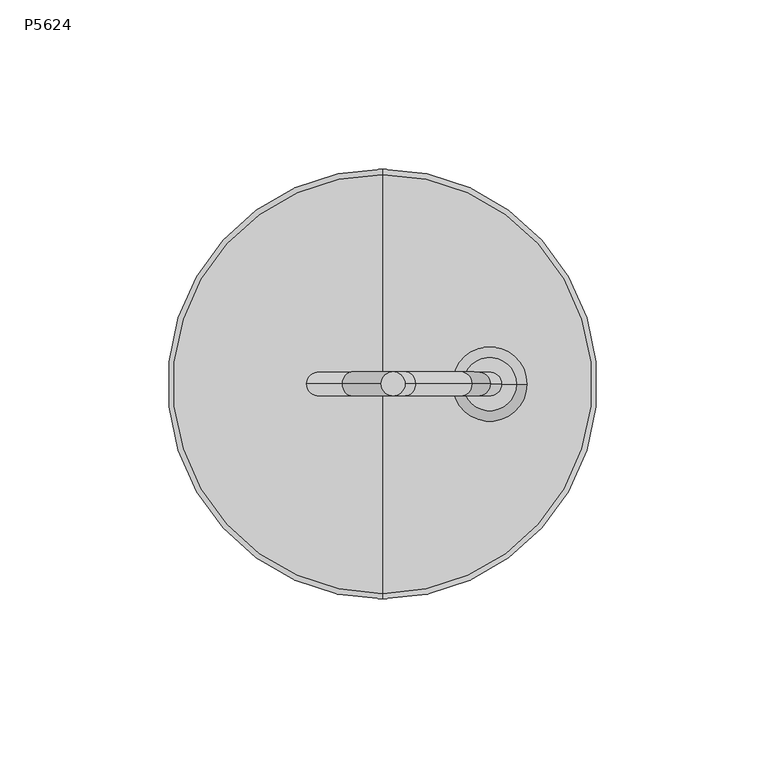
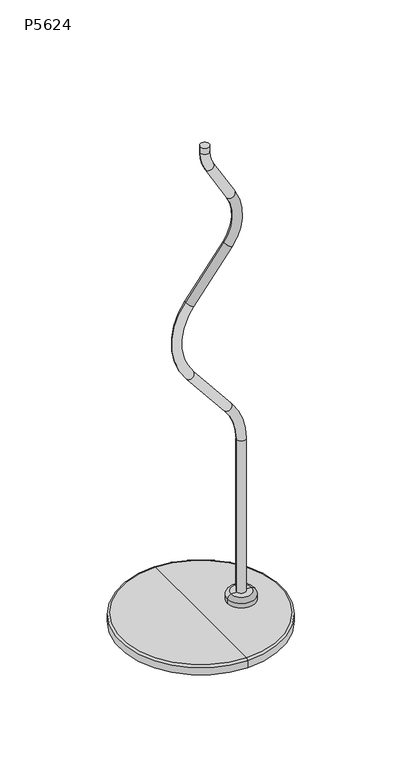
"""IFC4 building model written with IfcOpenShell, lengths in millimetres: light fixture geometry, Impact_Arch_Ltg-waf.r.3 : P5624."""

import ifcopenshell
import ifcopenshell.guid

model = None  # the IFC model being written
_history = None  # IfcOwnerHistory: only IFC2X3 demands one
_inside = {}  # id of a spatial element -> (the spatial element, [elements in it])
_under = {}  # id of a project, library or spatial element -> (it, [spatial elements below it])
_declared = {}  # id of a project -> (the project, [libraries it declares])
_typed = {}  # id of a type object -> (the type object, [elements of that type])
_made_of = {}  # id of a material, layer set ... -> (it, [elements and type objects made of it])


def new_model(schema):
    """Start an empty IFC model of exactly this schema.

    Asked for "IFC4X3", IfcOpenShell would pick the latest addendum, in which some entities
    have other attributes; the version numbers below select the first issue.
    IFC2X3 requires an IfcOwnerHistory on every rooted entity: one is made here for all.
    """
    global model, _history
    if schema == "IFC4X3":
        model = ifcopenshell.file(schema_version=(4, 3, 0, 0))
    else:
        model = ifcopenshell.file(schema=schema)
    _inside.clear()
    _under.clear()
    _declared.clear()
    _typed.clear()
    _made_of.clear()
    _history = None
    if model.schema == "IFC2X3":
        org = make("IfcOrganization", Name="unknown")
        user = make(
            "IfcPersonAndOrganization",
            ThePerson=make("IfcPerson", FamilyName="unknown"),
            TheOrganization=org,
        )
        app = make(
            "IfcApplication",
            ApplicationDeveloper=org,
            Version="unknown",
            ApplicationFullName="unknown",
            ApplicationIdentifier="unknown",
        )
        _history = make(
            "IfcOwnerHistory",
            OwningUser=user,
            OwningApplication=app,
            ChangeAction="ADDED",
            CreationDate=0,
        )
    return model


def make(cls, **values):
    """One entity of the class cls with the attributes given. An attribute that is None is left unset."""
    return model.create_entity(
        cls, **{name: value for name, value in values.items() if value is not None}
    )


def rooted(cls, **values):
    """An entity with a GlobalId (a new one), such as an element, a storey or a relation."""
    return make(cls, GlobalId=ifcopenshell.guid.new(), OwnerHistory=_history, **values)


def si_unit(unit_type, name, prefix=None):
    """IfcSIUnit, for example si_unit("LENGTHUNIT", "METRE", prefix="MILLI")."""
    return make("IfcSIUnit", UnitType=unit_type, Prefix=prefix, Name=name)


def assignment(units):
    """IfcUnitAssignment: the units of a project."""
    return None if units is None else make("IfcUnitAssignment", Units=units)


def point(xyz):
    """IfcCartesianPoint."""
    return None if xyz is None else make("IfcCartesianPoint", Coordinates=xyz)


def direction(xyz):
    """IfcDirection."""
    return None if xyz is None else make("IfcDirection", DirectionRatios=xyz)


def frame(location, z_axis=None, x_axis=None):
    """IfcAxis2Placement3D, a coordinate frame: its origin and axes. An axis left out is left unset."""
    return make(
        "IfcAxis2Placement3D",
        Location=point(location),
        Axis=direction(z_axis),
        RefDirection=direction(x_axis),
    )


def origin():
    """The frame at (0, 0, 0) with its axes left unset."""
    return frame((0.0, 0.0, 0.0))


def place(relative_to, where):
    """IfcLocalPlacement: puts the frame where relative to a parent placement (None: the world)."""
    return make(
        "IfcLocalPlacement", PlacementRelTo=relative_to, RelativePlacement=where
    )


def context(
    kind, dimensions, precision=None, world=None, true_north=None, identifier=None
):
    """IfcGeometricRepresentationContext, for example the 3D "Model" context."""
    return make(
        "IfcGeometricRepresentationContext",
        ContextIdentifier=identifier,
        ContextType=kind,
        CoordinateSpaceDimension=dimensions,
        Precision=precision,
        WorldCoordinateSystem=world,
        TrueNorth=true_north,
    )


def project(units=None, contexts=None):
    """IfcProject with its units and contexts."""
    return rooted(
        "IfcProject",
        Name="project",
        RepresentationContexts=contexts,
        UnitsInContext=assignment(units),
    )


def spatial(cls, under=None, at=None, **own):
    """A site, building, storey or space (cls), placed at a placement, below another one or the project."""
    s = rooted(cls, ObjectPlacement=at, **own)
    if under is not None:
        _under.setdefault(under.id(), (under, []))[1].append(s)
    return s


def circle_curve(where, radius):
    """IfcCircle in the frame where."""
    return make("IfcCircle", Position=where, Radius=radius)


def ellipse_curve(where, semi_axis1, semi_axis2):
    """IfcEllipse in the frame where."""
    return make(
        "IfcEllipse", Position=where, SemiAxis1=semi_axis1, SemiAxis2=semi_axis2
    )


def trimmed(basis, trim1, trim2, sense, master):
    """IfcTrimmedCurve: the piece of a basis curve between two trims."""
    return make(
        "IfcTrimmedCurve",
        BasisCurve=basis,
        Trim1=trim1,
        Trim2=trim2,
        SenseAgreement=sense,
        MasterRepresentation=master,
    )


def shape(context_of_items, identifier, shape_type, items):
    """IfcShapeRepresentation: the items that make up one representation, for example the "Body"."""
    return make(
        "IfcShapeRepresentation",
        ContextOfItems=context_of_items,
        RepresentationIdentifier=identifier,
        RepresentationType=shape_type,
        Items=items,
    )


def source(mapping_origin, context_of_items, identifier, shape_type, items):
    """IfcRepresentationMap: a shape defined once, which mapped items show again and again."""
    return make(
        "IfcRepresentationMap",
        MappingOrigin=mapping_origin,
        MappedRepresentation=shape(context_of_items, identifier, shape_type, items),
    )


def transform(
    local_origin,
    x_axis=None,
    y_axis=None,
    z_axis=None,
    scale=None,
    scale2=None,
    scale3=None,
    uniform=True,
):
    """IfcCartesianTransformationOperator3D, or its non-uniform kind. x_axis, y_axis, z_axis: its Axis1, 2, 3."""
    if uniform:
        return make(
            "IfcCartesianTransformationOperator3D",
            Axis1=direction(x_axis),
            Axis2=direction(y_axis),
            LocalOrigin=point(local_origin),
            Scale=scale,
            Axis3=direction(z_axis),
        )
    return make(
        "IfcCartesianTransformationOperator3DnonUniform",
        Axis1=direction(x_axis),
        Axis2=direction(y_axis),
        LocalOrigin=point(local_origin),
        Scale=scale,
        Axis3=direction(z_axis),
        Scale2=scale2,
        Scale3=scale3,
    )


def mapped(mapping_source, mapping_target):
    """IfcMappedItem: shows the shape of a source again, moved by a transform."""
    return make(
        "IfcMappedItem", MappingSource=mapping_source, MappingTarget=mapping_target
    )


def made_of(thing, what):
    """Note that an element or type object is made of a material, layer set ...; save() writes the relation."""
    if what is not None:
        _made_of.setdefault(what.id(), (what, []))[1].append(thing)
    return thing


def element(
    cls,
    number,
    at=None,
    inside=None,
    cuts=None,
    type_object=None,
    material=None,
    context=None,
    identifier="Body",
    shape_type=None,
    held_by="IfcProductDefinitionShape",
    body=None,
    shapes=None,
    **own,
):
    """One element of the class cls, such as IfcWall. Its Tag is "e" and its number.

    at: its placement. inside: the storey or other place that contains it. cuts: it is an
    opening in that element (IfcRelVoidsElement). A single representation is given by context,
    identifier, shape_type and body (its items); several are given by shapes. held_by: the class
    of the entity that holds the representations. save() writes the other relations.
    """
    e = rooted(cls, Tag="e%d" % number, ObjectPlacement=at, **own)
    if body is not None:
        shapes = [shape(context, identifier, shape_type, body)]
    if shapes is not None:
        e.Representation = make(held_by, Representations=shapes)
    if inside is not None:
        _inside.setdefault(inside.id(), (inside, []))[1].append(e)
    if cuts is not None:
        rooted(
            "IfcRelVoidsElement", RelatingBuildingElement=cuts, RelatedOpeningElement=e
        )
    if type_object is not None:
        _typed.setdefault(type_object.id(), (type_object, []))[1].append(e)
    return made_of(e, material)


def aggregate(whole, parts):
    """IfcRelAggregates: a whole, such as a stair, and the parts it consists of."""
    return rooted("IfcRelAggregates", RelatingObject=whole, RelatedObjects=parts)


def save(model, path):
    """Write the relations noted so far, then the file.

    IfcRelAggregates (storeys below a building ...), IfcRelContainedInSpatialStructure (elements
    in a storey), IfcRelDefinesByType, IfcRelAssociatesMaterial and IfcRelDeclares: one each for
    every whole, place, type object, material and project.
    """
    for whole, parts in _under.values():
        aggregate(whole, parts)
    for where, things in _inside.values():
        rooted(
            "IfcRelContainedInSpatialStructure",
            RelatedElements=things,
            RelatingStructure=where,
        )
    for kind, things in _typed.values():
        rooted("IfcRelDefinesByType", RelatedObjects=things, RelatingType=kind)
    for what, things in _made_of.values():
        rooted("IfcRelAssociatesMaterial", RelatedObjects=things, RelatingMaterial=what)
    for by, libraries in _declared.values():
        rooted("IfcRelDeclares", RelatingContext=by, RelatedDefinitions=libraries)
    model.write(path)


def plane_surface(at):
    """IfcPlane: the flat surface through the origin of the frame at, square to its z axis."""
    return make("IfcPlane", Position=at)


def cylinder_surface(at, radius):
    """IfcCylindricalSurface: all points at the distance radius from the z axis of the frame at."""
    return make("IfcCylindricalSurface", Position=at, Radius=radius)


def revolved_surface(curve, axis_point, axis_direction):
    """IfcSurfaceOfRevolution: the curve turned about the line through axis_point along axis_direction."""
    return make(
        "IfcSurfaceOfRevolution",
        SweptCurve=make("IfcArbitraryOpenProfileDef", ProfileType="CURVE", Curve=curve),
        AxisPosition=make("IfcAxis1Placement", Location=point(axis_point), Axis=direction(axis_direction)),
    )


def advanced_brep(points, edges, surfaces, faces):
    """IfcAdvancedBrep: a solid bounded by faces that lie on surfaces and meet in shared edges.

    An edge is (start, end): straight between two places in points (the first is 0);
    or (start, end, curve); or (start, end, curve, False) where it runs against its curve.
    A face is (place in surfaces, loops), or (place, loops, False) where it looks against
    its surface's normal. A loop lists edges by number (the first is 1), with a minus sign
    where the edge is run from its end to its start. The first loop is the outer one.
    """
    corners = [point(p) for p in points]
    vertices = [make("IfcVertexPoint", VertexGeometry=c) for c in corners]
    made = []
    for start, end, *more in edges:
        made.append(
            make(
                "IfcEdgeCurve",
                EdgeStart=vertices[start],
                EdgeEnd=vertices[end],
                EdgeGeometry=more[0] if more else make("IfcPolyline", Points=[corners[start], corners[end]]),
                SameSense=more[1] if len(more) > 1 else True,
            )
        )
    hull = []
    for where, loops, *sense in faces:
        bounds = []
        for j, loop in enumerate(loops):
            ring = [make("IfcOrientedEdge", EdgeElement=made[abs(k) - 1], Orientation=k > 0) for k in loop]
            bounds.append(
                make(
                    "IfcFaceOuterBound" if j == 0 else "IfcFaceBound",
                    Bound=make("IfcEdgeLoop", EdgeList=ring),
                    Orientation=True,
                )
            )
        hull.append(make("IfcAdvancedFace", Bounds=bounds, FaceSurface=surfaces[where], SameSense=sense[0] if sense else True))
    return make("IfcAdvancedBrep", Outer=make("IfcClosedShell", CfsFaces=hull))


def p5624_873c4495(model_context):
    return source(origin(), model_context, "Body", "AdvancedBrep", [
        advanced_brep(
        [(0.0, 63.5264903, 0.0), (0.0, -63.5264903, 0.0), (0.0, -63.5264903, 5.7785), (0.0, 63.5264903, 5.7785), (0.0, 0.0, 0.0), (0.0, 61.9389903, 7.366), (0.0, -61.9389903, 7.366), (0.0, 0.0, 7.366)],
        [
            (0, 1, circle_curve(frame((0.0, 0.0, 0.0), z_axis=(0.0, 0.0, 1.0), x_axis=(0.0, -1.0, 0.0)), 63.5264903)),
            (1, 2),
            (2, 3, circle_curve(frame((0.0, 0.0, 5.7785), z_axis=(0.0, 0.0, -1.0), x_axis=(0.0, -1.0, 0.0)), 63.5264903)),
            (3, 0),
            (1, 0, circle_curve(frame((0.0, 0.0, 0.0), z_axis=(0.0, 0.0, 1.0), x_axis=(0.0, -1.0, 0.0)), 63.5264903)),
            (3, 2, circle_curve(frame((0.0, 0.0, 5.7785), z_axis=(0.0, 0.0, -1.0), x_axis=(0.0, -1.0, 0.0)), 63.5264903)),
            (4, 1),
            (0, 4),
            (5, 6, circle_curve(frame((0.0, 0.0, 7.366), z_axis=(0.0, 0.0, 1.0), x_axis=(0.0, -1.0, 0.0)), 61.9389903)),
            (6, 7),
            (7, 5),
            (6, 5, circle_curve(frame((0.0, 0.0, 7.366), z_axis=(0.0, 0.0, 1.0), x_axis=(0.0, -1.0, 0.0)), 61.9389903)),
            (2, 6, circle_curve(frame((0.0, -61.9389903, 5.7785), z_axis=(-1.0, 0.0, 0.0), x_axis=(0.0, 1.0, 0.0)), 1.5875)),
            (5, 3, circle_curve(frame((0.0, 61.9389903, 5.7785), z_axis=(-1.0, 0.0, 0.0), x_axis=(0.0, -1.0, 0.0)), 1.5875)),
        ],
        [
            cylinder_surface(frame((0.0, 0.0, -9.7717916), z_axis=(0.0, 0.0, -1.0), x_axis=(0.0, -1.0, 0.0)), 63.5264903),
            plane_surface(frame((0.0, 0.0, 0.0), z_axis=(0.0, 0.0, -1.0), x_axis=(0.0, -1.0, 0.0))),
            plane_surface(frame((0.0, 0.0, 7.366), z_axis=(0.0, 0.0, 1.0), x_axis=(0.0, -1.0, 0.0))),
            revolved_surface(trimmed(ellipse_curve(frame((0.0, -61.9389903, 5.7785), z_axis=(1.0, 0.0, 0.0), x_axis=(0.0, 1.0, 0.0)), 1.5875, 1.5875), [point((0.0, -61.9389903, 7.366))], [point((0.0, -63.5264903, 5.7785))], True, "CARTESIAN"), (0.0, 0.0, -9.7717916), (0.0, 0.0, -1.0)),
        ],
        [
            (0, [[1, 2, 3, 4]]),
            (0, [[5, -4, 6, -2]]),
            (1, [[7, -1, 8]]),
            (1, [[-8, -5, -7]]),
            (2, [[9, 10, 11]]),
            (2, [[12, -11, -10]]),
            (3, [[-3, 13, -9, 14]]),
            (3, [[-6, -14, -12, -13]]),
        ],
    ),
        advanced_brep(
        [(31.75, 0.0, 14.351), (39.6031027, 0.0, 14.351), (23.8968973, 0.0, 14.351), (20.7570545, 0.0, 7.366), (42.7429455, 0.0, 7.366), (31.75, 0.0, 7.366), (20.7570545, 0.0, 11.2111572), (42.7429455, 0.0, 11.2111572)],
        [
            (0, 1),
            (1, 2, circle_curve(frame((31.75, 0.0, 14.351), z_axis=(0.0, 0.0, 1.0), x_axis=(1.0, 0.0, 0.0)), 7.8531027)),
            (2, 0),
            (2, 1, circle_curve(frame((31.75, 0.0, 14.351), z_axis=(0.0, 0.0, 1.0), x_axis=(1.0, 0.0, 0.0)), 7.8531027)),
            (3, 4, circle_curve(frame((31.75, 0.0, 7.366), z_axis=(0.0, 0.0, -1.0), x_axis=(1.0, 0.0, 0.0)), 10.9929455)),
            (4, 5),
            (5, 3),
            (4, 3, circle_curve(frame((31.75, 0.0, 7.366), z_axis=(0.0, 0.0, -1.0), x_axis=(1.0, 0.0, 0.0)), 10.9929455)),
            (6, 7, circle_curve(frame((31.75, 0.0, 11.2111572), z_axis=(0.0, 0.0, -1.0), x_axis=(1.0, 0.0, 0.0)), 10.9929455)),
            (7, 4),
            (3, 6),
            (7, 6, circle_curve(frame((31.75, 0.0, 11.2111572), z_axis=(0.0, 0.0, -1.0), x_axis=(1.0, 0.0, 0.0)), 10.9929455)),
            (1, 7, circle_curve(frame((39.6031027, 0.0, 11.2111572), z_axis=(0.0, 1.0, 0.0), x_axis=(1.0, 0.0, 0.0)), 3.1398428)),
            (6, 2, circle_curve(frame((23.8968973, 0.0, 11.2111572), z_axis=(0.0, 1.0, 0.0), x_axis=(-1.0, 0.0, 0.0)), 3.1398428)),
        ],
        [
            plane_surface(frame((31.75, 0.0, 14.351), z_axis=(0.0, 0.0, 1.0), x_axis=(1.0, 0.0, 0.0))),
            plane_surface(frame((31.75, 0.0, 7.366), z_axis=(0.0, 0.0, -1.0), x_axis=(1.0, 0.0, 0.0))),
            cylinder_surface(frame((31.75, 0.0, 20.1361367), z_axis=(0.0, 0.0, 1.0), x_axis=(1.0, 0.0, 0.0)), 10.9929455),
            revolved_surface(trimmed(ellipse_curve(frame((39.6031027, 0.0, 11.2111572), z_axis=(0.0, -1.0, 0.0), x_axis=(1.0, 0.0, 0.0)), 3.1398428, 3.1398428), [point((42.7429455, 0.0, 11.2111572))], [point((39.6031027, 0.0, 14.351))], True, "CARTESIAN"), (31.75, 0.0, 20.1361367), (0.0, 0.0, 1.0)),
        ],
        [
            (0, [[1, 2, 3]]),
            (0, [[-3, 4, -1]]),
            (1, [[5, 6, 7]]),
            (1, [[8, -7, -6]]),
            (2, [[9, 10, -5, 11]]),
            (2, [[12, -11, -8, -10]]),
            (3, [[-2, 13, -9, 14]]),
            (3, [[-4, -14, -12, -13]]),
        ],
    ),
        advanced_brep(
        [(35.2628496, 0.0, 14.3508541), (28.1759769, 0.0, 14.3508541), (35.2628496, 0.0, 140.8034113), (28.1759769, 0.0, 140.8034113), (18.43433, 0.0, 168.3129737), (23.9418645, 0.0, 172.7728872), (-5.6345189, 0.0, 209.2966789), (-11.1420534, 0.0, 204.8367654), (-11.9661144, 0.0, 268.6582428), (-6.3452627, 0.0, 264.3420187), (23.7390917, 0.0, 303.5197099), (18.1182399, 0.0, 307.835934), (20.4729401, 0.0, 344.3287409), (26.6018809, 0.0, 347.8868091), (9.9112613, 0.0, 376.6371912), (3.7823205, 0.0, 373.0791231), (-0.4093526, 0.0, 388.6483499), (6.6775201, 0.0, 388.6483499), (6.6775201, 0.0, 393.9232936), (-0.4093526, 0.0, 393.9232936)],
        [
            (0, 1, circle_curve(frame((31.7194133, 0.0, 14.3508541), z_axis=(0.0, 0.0, -1.0), x_axis=(-1.0, 0.0, 0.0)), 3.5434363)),
            (1, 0, circle_curve(frame((31.7194133, 0.0, 14.3508541), z_axis=(0.0, 0.0, -1.0), x_axis=(-1.0, 0.0, 0.0)), 3.5434363)),
            (0, 2),
            (2, 3, circle_curve(frame((31.7194133, 0.0, 140.8034113), z_axis=(0.0, 0.0, -1.0), x_axis=(-1.0, 0.0, 0.0)), 3.5434363)),
            (3, 1),
            (3, 2, circle_curve(frame((31.7194133, 0.0, 140.8034113), z_axis=(0.0, 0.0, -1.0), x_axis=(-1.0, 0.0, 0.0)), 3.5434363)),
            (4, 3, circle_curve(frame((-15.5371504, 0.0, 140.8034113), z_axis=(0.0, 1.0, 0.0), x_axis=(1.0, 0.0, 0.0)), 43.7131273)),
            (2, 5, circle_curve(frame((-15.5371504, 0.0, 140.8034113), z_axis=(0.0, -1.0, 0.0), x_axis=(1.0, 0.0, 0.0)), 50.8)),
            (5, 4, circle_curve(frame((21.1880972, 0.0, 170.5429304), z_axis=(0.6293203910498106, 0.0, -0.7771459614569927), x_axis=(-0.7771459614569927, 0.0, -0.6293203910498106)), 3.5434363)),
            (4, 5, circle_curve(frame((21.1880972, 0.0, 170.5429304), z_axis=(0.6293203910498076, 0.0, -0.7771459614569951), x_axis=(-0.7771459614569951, 0.0, -0.6293203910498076)), 3.5434363)),
            (5, 6),
            (6, 7, circle_curve(frame((-8.3882861, 0.0, 207.0667221), z_axis=(0.6293203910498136, 0.0, -0.7771459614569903), x_axis=(-0.7771459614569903, 0.0, -0.6293203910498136)), 3.5434363)),
            (7, 4),
            (7, 6, circle_curve(frame((-8.3882861, 0.0, 207.0667221), z_axis=(0.6293203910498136, 0.0, -0.7771459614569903), x_axis=(-0.7771459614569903, 0.0, -0.6293203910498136)), 3.5434363)),
            (8, 7, circle_curve(frame((28.9096191, 0.0, 237.2699703), z_axis=(0.0, -1.0, 0.0), x_axis=(-0.7771459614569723, 0.0, -0.6293203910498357)), 51.5368727)),
            (6, 9, circle_curve(frame((28.9096191, 0.0, 237.2699703), z_axis=(0.0, 1.0, 0.0), x_axis=(-0.7771459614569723, 0.0, -0.6293203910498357)), 44.45)),
            (9, 8, circle_curve(frame((-9.1556885, 0.0, 266.5001308), z_axis=(-0.609044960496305, 0.0, -0.7931356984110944), x_axis=(-0.7931356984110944, 0.0, 0.609044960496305)), 3.5434363)),
            (8, 9, circle_curve(frame((-9.1556885, 0.0, 266.5001308), z_axis=(-0.6090449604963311, 0.0, -0.7931356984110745), x_axis=(-0.7931356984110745, 0.0, 0.6090449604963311)), 3.5434363)),
            (9, 10),
            (10, 11, circle_curve(frame((20.9286658, 0.0, 305.677822), z_axis=(-0.6090449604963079, 0.0, -0.7931356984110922), x_axis=(-0.7931356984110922, 0.0, 0.6090449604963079)), 3.5434363)),
            (11, 8),
            (11, 10, circle_curve(frame((20.9286658, 0.0, 305.677822), z_axis=(-0.6090449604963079, 0.0, -0.7931356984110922), x_axis=(-0.7931356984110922, 0.0, 0.6090449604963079)), 3.5434363)),
            (12, 11, circle_curve(frame((-7.9311686, 0.0, 327.8391454), z_axis=(0.0, 1.0, 0.0), x_axis=(0.7931356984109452, 0.0, -0.6090449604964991)), 32.8435709)),
            (10, 13, circle_curve(frame((-7.9311686, 0.0, 327.8391454), z_axis=(0.0, -1.0, 0.0), x_axis=(0.7931356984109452, 0.0, -0.6090449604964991)), 39.9304436)),
            (13, 12, circle_curve(frame((23.5374105, 0.0, 346.107775), z_axis=(0.5020646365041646, 0.0, -0.864830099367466), x_axis=(-0.864830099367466, 0.0, -0.5020646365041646)), 3.5434363)),
            (12, 13, circle_curve(frame((23.5374105, 0.0, 346.107775), z_axis=(0.5020646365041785, 0.0, -0.8648300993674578), x_axis=(-0.8648300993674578, 0.0, -0.5020646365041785)), 3.5434363)),
            (13, 14),
            (14, 15, circle_curve(frame((6.8467909, 0.0, 374.8581572), z_axis=(0.5020646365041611, 0.0, -0.8648300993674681), x_axis=(-0.8648300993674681, 0.0, -0.5020646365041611)), 3.5434363)),
            (15, 12),
            (15, 14, circle_curve(frame((6.8467909, 0.0, 374.8581572), z_axis=(0.5020646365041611, 0.0, -0.8648300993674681), x_axis=(-0.8648300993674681, 0.0, -0.5020646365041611)), 3.5434363)),
            (16, 15, circle_curve(frame((30.6010507, 0.0, 388.6483499), z_axis=(0.0, -1.0, 0.0), x_axis=(-0.8648300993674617, 0.0, -0.502064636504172)), 31.0104033)),
            (14, 17, circle_curve(frame((30.6010507, 0.0, 388.6483499), z_axis=(0.0, 1.0, 0.0), x_axis=(-0.8648300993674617, 0.0, -0.502064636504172)), 23.9235306)),
            (17, 16, circle_curve(frame((3.1340837, 0.0, 388.6483499), z_axis=(0.0, 0.0, -1.0), x_axis=(-1.0, 0.0, 0.0)), 3.5434363)),
            (16, 17, circle_curve(frame((3.1340837, 0.0, 388.6483499), z_axis=(0.0, 0.0, -1.0), x_axis=(-1.0, 0.0, 0.0)), 3.5434363)),
            (18, 19, circle_curve(frame((3.1340837, 0.0, 393.9232936), z_axis=(0.0, 0.0, 1.0), x_axis=(-1.0, 0.0, 0.0)), 3.5434363)),
            (19, 18, circle_curve(frame((3.1340837, 0.0, 393.9232936), z_axis=(0.0, 0.0, 1.0), x_axis=(-1.0, 0.0, 0.0)), 3.5434363)),
            (17, 18),
            (19, 16),
        ],
        [
            plane_surface(frame((35.2628496, 0.0, 14.3508541), z_axis=(0.0, 0.0, -1.0), x_axis=(0.0, -1.0, 0.0))),
            cylinder_surface(frame((31.7194133, 0.0, 14.3508541), z_axis=(0.0, 0.0, -1.0), x_axis=(-1.0, 0.0, 0.0)), 3.5434363),
            revolved_surface(trimmed(ellipse_curve(frame((31.7194133, 0.0, 140.8034113), z_axis=(0.0, 0.0, -1.0), x_axis=(-1.0, 0.0, 0.0)), 3.5434363, 3.5434363), [point((35.2628496, 0.0, 140.8034113))], [point((28.1759769, 0.0, 140.8034113))], True, "CARTESIAN"), (-15.5371504, 0.0, 140.8034113), (0.0, -1.0, 0.0)),
            revolved_surface(trimmed(ellipse_curve(frame((31.7194133, 0.0, 140.8034113), z_axis=(0.0, 0.0, -1.0), x_axis=(-1.0, 0.0, 0.0)), 3.5434363, 3.5434363), [point((28.1759769, 0.0, 140.8034113))], [point((35.2628496, 0.0, 140.8034113))], True, "CARTESIAN"), (-15.5371504, 0.0, 140.8034113), (0.0, -1.0, 0.0)),
            cylinder_surface(frame((21.1880972, 0.0, 170.5429304), z_axis=(0.6293203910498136, 0.0, -0.7771459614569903), x_axis=(-0.7771459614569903, 0.0, -0.6293203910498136)), 3.5434363),
            revolved_surface(trimmed(ellipse_curve(frame((-8.3882861, 0.0, 207.0667221), z_axis=(0.6293203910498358, 0.0, -0.7771459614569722), x_axis=(-0.7771459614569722, 0.0, -0.6293203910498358)), 3.5434363, 3.5434363), [point((-5.6345189, 0.0, 209.2966789))], [point((-11.1420534, 0.0, 204.8367654))], True, "CARTESIAN"), (28.9096191, 0.0, 237.2699703), (0.0, 1.0, 0.0)),
            revolved_surface(trimmed(ellipse_curve(frame((-8.3882861, 0.0, 207.0667221), z_axis=(0.6293203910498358, 0.0, -0.7771459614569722), x_axis=(-0.7771459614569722, 0.0, -0.6293203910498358)), 3.5434363, 3.5434363), [point((-11.1420534, 0.0, 204.8367654))], [point((-5.6345189, 0.0, 209.2966789))], True, "CARTESIAN"), (28.9096191, 0.0, 237.2699703), (0.0, 1.0, 0.0)),
            cylinder_surface(frame((-9.1556885, 0.0, 266.5001308), z_axis=(-0.6090449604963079, 0.0, -0.7931356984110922), x_axis=(-0.7931356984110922, 0.0, 0.6090449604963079)), 3.5434363),
            revolved_surface(trimmed(ellipse_curve(frame((20.9286658, 0.0, 305.677822), z_axis=(-0.609044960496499, 0.0, -0.7931356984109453), x_axis=(-0.7931356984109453, 0.0, 0.609044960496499)), 3.5434363, 3.5434363), [point((23.7390917, 0.0, 303.5197099))], [point((18.1182399, 0.0, 307.835934))], True, "CARTESIAN"), (-7.9311686, 0.0, 327.8391454), (0.0, -1.0, 0.0)),
            revolved_surface(trimmed(ellipse_curve(frame((20.9286658, 0.0, 305.677822), z_axis=(-0.609044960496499, 0.0, -0.7931356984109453), x_axis=(-0.7931356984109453, 0.0, 0.609044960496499)), 3.5434363, 3.5434363), [point((18.1182399, 0.0, 307.835934))], [point((23.7390917, 0.0, 303.5197099))], True, "CARTESIAN"), (-7.9311686, 0.0, 327.8391454), (0.0, -1.0, 0.0)),
            cylinder_surface(frame((23.5374105, 0.0, 346.107775), z_axis=(0.5020646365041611, 0.0, -0.8648300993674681), x_axis=(-0.8648300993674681, 0.0, -0.5020646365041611)), 3.5434363),
            revolved_surface(trimmed(ellipse_curve(frame((6.8467909, 0.0, 374.8581572), z_axis=(0.502064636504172, 0.0, -0.8648300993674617), x_axis=(-0.8648300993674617, 0.0, -0.502064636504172)), 3.5434363, 3.5434363), [point((9.9112613, 0.0, 376.6371912))], [point((3.7823205, 0.0, 373.0791231))], True, "CARTESIAN"), (30.6010507, 0.0, 388.6483499), (0.0, 1.0, 0.0)),
            revolved_surface(trimmed(ellipse_curve(frame((6.8467909, 0.0, 374.8581572), z_axis=(0.502064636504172, 0.0, -0.8648300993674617), x_axis=(-0.8648300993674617, 0.0, -0.502064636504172)), 3.5434363, 3.5434363), [point((3.7823205, 0.0, 373.0791231))], [point((9.9112613, 0.0, 376.6371912))], True, "CARTESIAN"), (30.6010507, 0.0, 388.6483499), (0.0, 1.0, 0.0)),
            plane_surface(frame((6.6775201, 0.0, 393.9232936), z_axis=(0.0, 0.0, 1.0), x_axis=(0.0, -1.0, 0.0))),
            cylinder_surface(frame((3.1340837, 0.0, 388.6483499), z_axis=(0.0, 0.0, -1.0), x_axis=(-1.0, 0.0, 0.0)), 3.5434363),
        ],
        [
            (0, [[1, 2]]),
            (1, [[-1, 3, 4, 5]]),
            (1, [[-2, -5, 6, -3]]),
            (2, [[7, -4, 8, 9]]),
            (3, [[-8, -6, -7, 10]]),
            (4, [[-9, 11, 12, 13]]),
            (4, [[-10, -13, 14, -11]]),
            (5, [[15, -12, 16, 17]]),
            (6, [[-16, -14, -15, 18]]),
            (7, [[-17, 19, 20, 21]]),
            (7, [[-18, -21, 22, -19]]),
            (8, [[23, -20, 24, 25]]),
            (9, [[-24, -22, -23, 26]]),
            (10, [[-25, 27, 28, 29]]),
            (10, [[-26, -29, 30, -27]]),
            (11, [[31, -28, 32, 33]]),
            (12, [[-32, -30, -31, 34]]),
            (13, [[35, 36]]),
            (14, [[-33, 37, -36, 38]]),
            (14, [[-34, -38, -35, -37]]),
        ],
    ),
    ])


if __name__ == "__main__":
    model = new_model("IFC4")
    model_context = context("Model", 3, world=origin())
    ifc_project = project(units=[si_unit("LENGTHUNIT", "METRE", prefix="MILLI")], contexts=[model_context])
    site = spatial("IfcSite", under=ifc_project)
    building = spatial("IfcBuilding", under=site)
    placement = place(None, origin())
    p5624_shape = p5624_873c4495(model_context)
    element("IfcLightFixture", 1, ObjectType="Impact_Arch_Ltg-waf.r.3 : P5624", at=placement, inside=building, context=model_context, shape_type="MappedRepresentation", body=[
        mapped(p5624_shape, transform((0.0, 0.0, 0.0), x_axis=(1.0, 0.0, 0.0), y_axis=(0.0, 1.0, 0.0), z_axis=(0.0, 0.0, 1.0))),
    ])
    save(model, "model.ifc")
